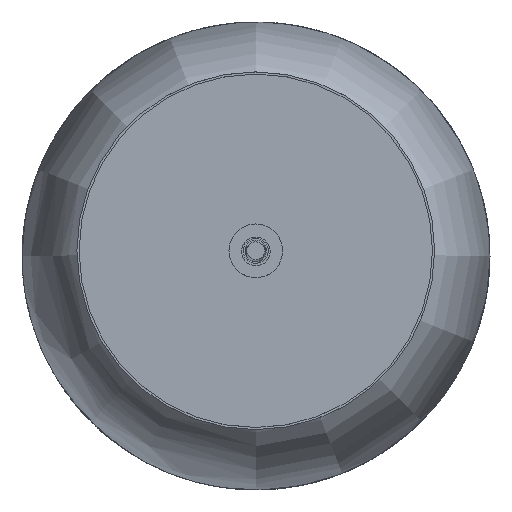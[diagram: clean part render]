
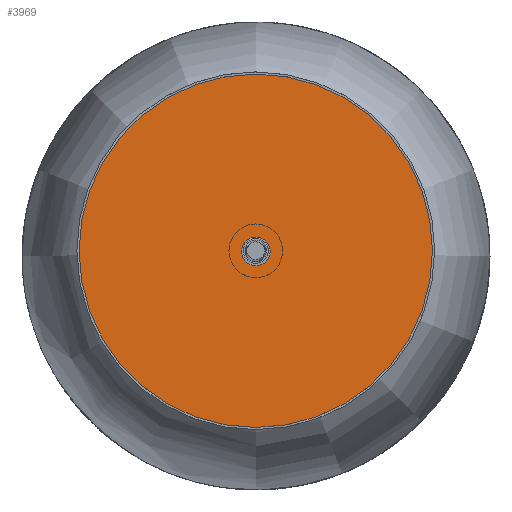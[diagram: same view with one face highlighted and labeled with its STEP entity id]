
A CAD part, top view. The second image highlights one B-rep face of the part: STEP entity #3969.
In plain terms, the highlighted planar face has unit normal (0, 0, 1).
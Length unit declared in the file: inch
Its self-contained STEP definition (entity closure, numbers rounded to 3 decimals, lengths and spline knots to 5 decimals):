
#77=FACE_BOUND('',#794,.T.);
#122=PLANE('',#4270);
#536=FACE_OUTER_BOUND('',#793,.T.);
#793=EDGE_LOOP('',(#2897));
#794=EDGE_LOOP('',(#2898));
#1437=CIRCLE('',#4265,0.2);
#1439=CIRCLE('',#4268,2.47);
#1614=VERTEX_POINT('',#10421);
#1616=VERTEX_POINT('',#10427);
#2086=EDGE_CURVE('',#1614,#1614,#1437,.T.);
#2089=EDGE_CURVE('',#1616,#1616,#1439,.F.);
#2897=ORIENTED_EDGE('',*,*,#2089,.T.);
#2898=ORIENTED_EDGE('',*,*,#2086,.T.);
#3969=ADVANCED_FACE('',(#536,#77),#122,.T.);
#4265=AXIS2_PLACEMENT_3D('',#10422,#4779,#4780);
#4268=AXIS2_PLACEMENT_3D('',#10428,#4786,#4787);
#4270=AXIS2_PLACEMENT_3D('',#10432,#4791,#4792);
#4779=DIRECTION('center_axis',(0.,0.,-1.));
#4780=DIRECTION('ref_axis',(1.,0.,0.));
#4786=DIRECTION('center_axis',(0.,0.,-1.));
#4787=DIRECTION('ref_axis',(1.,0.,0.));
#4791=DIRECTION('center_axis',(0.,0.,1.));
#4792=DIRECTION('ref_axis',(1.,0.,0.));
#10421=CARTESIAN_POINT('',(-0.19813,-0.00889,45.73));
#10422=CARTESIAN_POINT('Origin',(0.00187,-0.00889,
45.73));
#10427=CARTESIAN_POINT('',(-2.47,0.,45.73));
#10428=CARTESIAN_POINT('Origin',(0.,0.,
45.73));
#10432=CARTESIAN_POINT('Origin',(0.,0.,
45.73));
